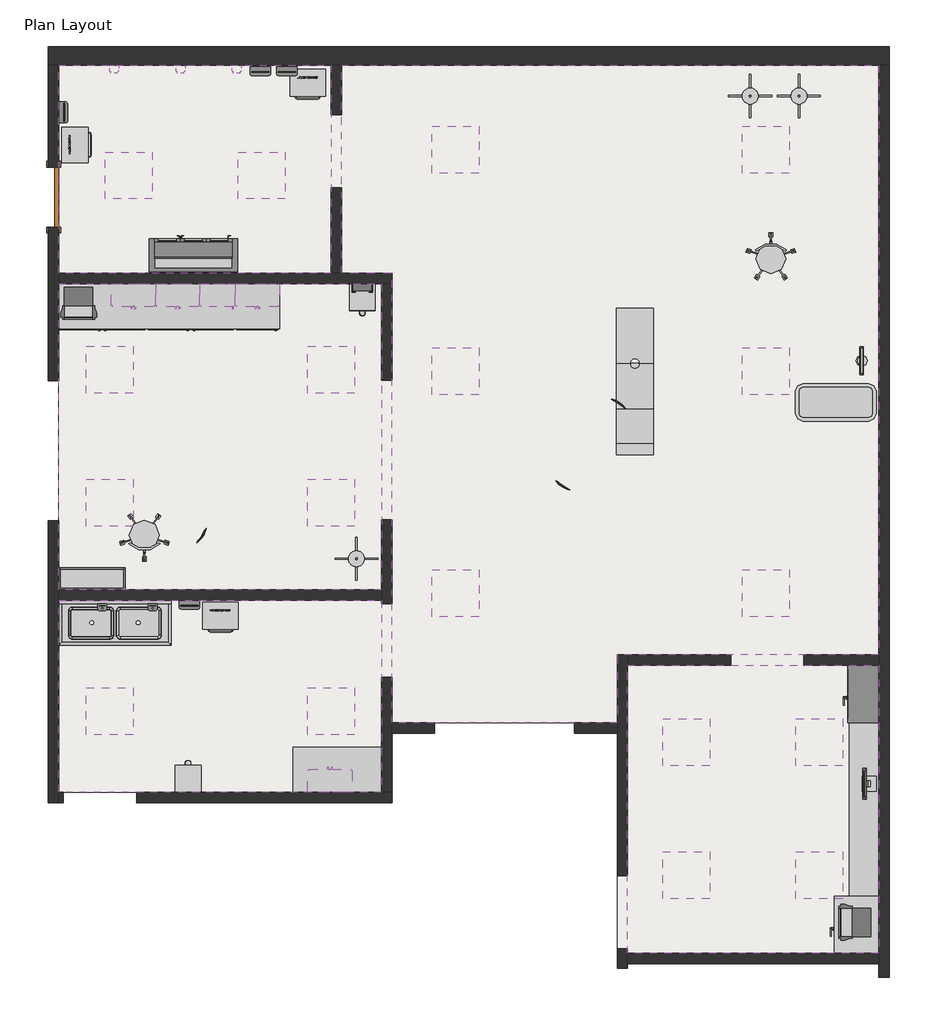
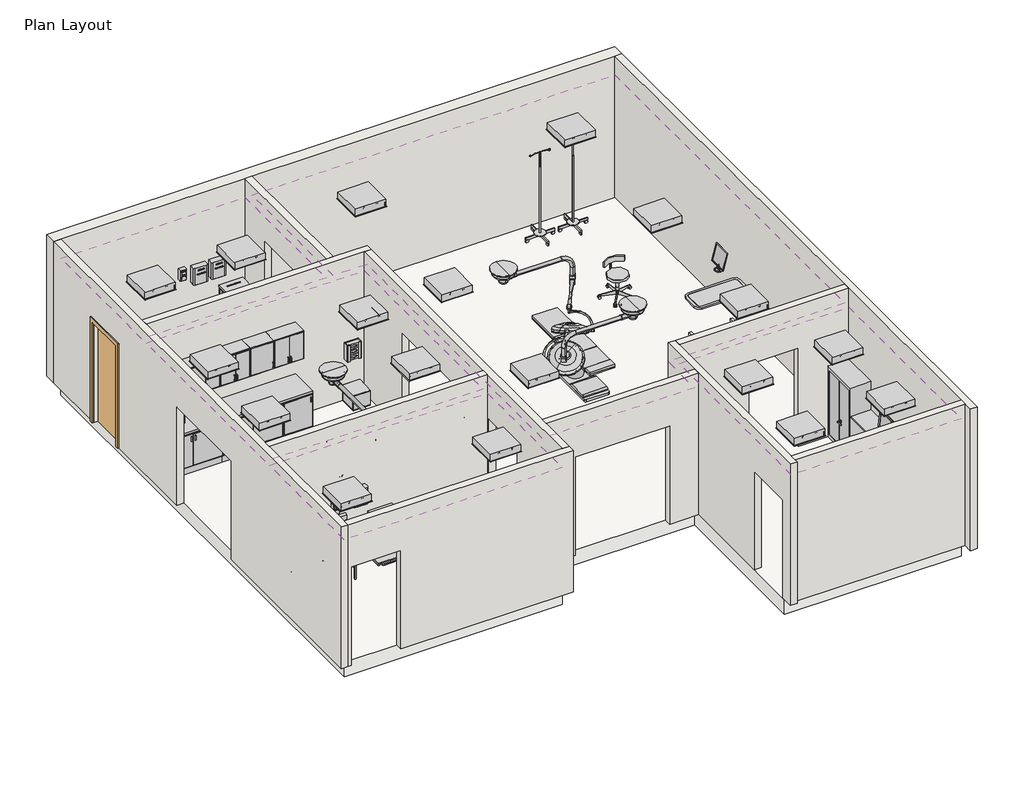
# One storey, incomplete: 31 furniture elements, 18 light fixtures, 14 proxies, 12 walls, 5 coverings, 1 door, 1 flow terminal, 1 slab.
"""IFC4 building model written with IfcOpenShell, lengths in millimetres."""

from ifc_helpers import new_model, si_unit, frame, origin, origin_with_axes, place, context, project, spatial, polyline, outline, extrude, faceted_brep, transform, mapped, element, save
from components import computer_lcd_reed_standard_d5f8aea6, dispenser_wall_medical_glove_holder_reed_dispenser_wall_c39a3ff9, iv_pole_4452_iv_pole_4452_920e618b, med_light_med_light_ebe8f9ca, med_light_med_light_51e73a2f, proxy_36ae4762, tft_monitor_tft_monitor_f74c8f71, table_or_reed_or_table_reed_c54af461, trashcan_small_reed_trashcan_small_reed_99036629, door_0813_x_2134mm_88d946ac, flow_terminal_32be4649, flow_terminal_316eafe6, furniture_5d620d8c, furniture_586be2a2, furniture_26d36cfe, furniture_166ce8d1, furniture_197fe330, cabinet_storage_780_x_430_x_1500_3fb16e5e, cabinet_storage_780_x_600_x_900_050bcf3c, cabinet_file_lateral_5_drawer_760_x_500_x_1520mm_f8146b65, chair_5_reed_chair_5_reed_12ea8904, m_upper_cabinet_double_door_wall_600mm_f8711566, m_upper_cabinet_single_door_wall_600mm_471400de, vanity_cabinet_dbl_door_1000mm_172667e9, vanity_cabinet_single_door_600mm_90b11e86, vanity_counter_top_400mm_depth_ec3fbc7b, vanity_counter_top_600mm_depth_447de73f, vanity_counter_top_600mm_depth_b6b50156, light_ceiling_fluorescent_recessed_parabolic_2_reed_two_lamp_72a9a026

model = new_model("IFC4")

# Units and contexts
model_context = context("Model", 3, world=origin())
ifc_project = project(units=[si_unit("LENGTHUNIT", "METRE", prefix="MILLI")], contexts=[model_context])

# Site, building, storey
site = spatial("IfcSite", under=ifc_project)
building = spatial("IfcBuilding", under=site)
storey = spatial("IfcBuildingStorey", under=building, Name="Plan Layout", Elevation=0.0)

# Proxies
placement = place(None, origin())
computer_lcd_reed_standard_shape = computer_lcd_reed_standard_d5f8aea6(model_context)
element("IfcBuildingElementProxy", 1, Name="Computer_LCD_Reed : Standard", ObjectType="Computer_LCD_Reed : Standard", at=placement, inside=storey, context=model_context, shape_type="MappedRepresentation", body=[
    mapped(computer_lcd_reed_standard_shape, transform((4037.5285128, 1463.5748694, 973.6946466), x_axis=(0.0, -1.0, 0.0), y_axis=(1.0, 0.0, 0.0), z_axis=(0.0, 0.0, 1.0))),
])
dispenser_wall_medical_glove_holder_reed_dispenser_wall_shape = dispenser_wall_medical_glove_holder_reed_dispenser_wall_c39a3ff9(model_context)
element("IfcBuildingElementProxy", 2, Name="Dispenser-Wall_Medical_Glove-Holder_Reed : Dispenser-Wall_Medical_Glove-Holder_Reed", ObjectType="Dispenser-Wall_Medical_Glove-Holder_Reed : Dispenser-Wall_Medical_Glove-Holder_Reed", at=placement, inside=storey, context=model_context, shape_type="MappedRepresentation", body=[
    mapped(dispenser_wall_medical_glove_holder_reed_dispenser_wall_shape, transform((-2818.7185551, 2585.1778015, 0.0), x_axis=(-1.0, 0.0, 0.0), y_axis=(0.0, -1.0, 0.0), z_axis=(0.0, 0.0, 1.0))),
])
iv_pole_4452_iv_pole_4452_shape = iv_pole_4452_iv_pole_4452_920e618b(model_context)
element("IfcBuildingElementProxy", 3, Name="IV_pole_4452 : IV_pole_4452", ObjectType="IV_pole_4452 : IV_pole_4452", at=placement, inside=storey, context=model_context, shape_type="MappedRepresentation", body=[
    mapped(iv_pole_4452_iv_pole_4452_shape, transform((-2899.0185551, -1204.8221985, 0.0), x_axis=(1.0, 0.0, 0.0), y_axis=(0.0, 1.0, 0.0), z_axis=(0.0, 0.0, 1.0))),
])
element("IfcBuildingElementProxy", 4, Name="IV_pole_4452 : IV_pole_4452", ObjectType="IV_pole_4452 : IV_pole_4452", at=placement, inside=storey, context=model_context, shape_type="MappedRepresentation", body=[
    mapped(iv_pole_4452_iv_pole_4452_shape, transform((2430.9814449, 5055.1778015, 0.0), x_axis=(1.0, 0.0, 0.0), y_axis=(0.0, 1.0, 0.0), z_axis=(0.0, 0.0, 1.0))),
])
element("IfcBuildingElementProxy", 5, Name="IV_pole_4452 : IV_pole_4452", ObjectType="IV_pole_4452 : IV_pole_4452", at=placement, inside=storey, context=model_context, shape_type="MappedRepresentation", body=[
    mapped(iv_pole_4452_iv_pole_4452_shape, transform((3090.9814449, 5055.1778015, 0.0), x_axis=(1.0, 0.0, 0.0), y_axis=(0.0, 1.0, 0.0), z_axis=(0.0, 0.0, 1.0))),
])
med_light_med_light_shape = med_light_med_light_ebe8f9ca(model_context)
med_light_med_light_2_shape = med_light_med_light_51e73a2f(model_context)
element("IfcBuildingElementProxy", 6, Name="Med light : Med light", ObjectType="Med light : Med light", at=placement, inside=storey, context=model_context, shape_type="MappedRepresentation", body=[
    mapped(med_light_med_light_shape, transform((-432.3543831, 1365.3940332, 275.3213976), x_axis=(0.0, -1.0000000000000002, 0.0), y_axis=(1.0000000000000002, 0.0, 0.0), z_axis=(0.0, 0.0, 1.0))),
    mapped(med_light_med_light_2_shape, transform((-432.3543831, 1365.3940332, 275.3213976), x_axis=(0.0, -1.0000000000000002, 0.0), y_axis=(1.0000000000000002, 0.0, 0.0), z_axis=(0.0, 0.0, 1.0))),
])
element("IfcBuildingElementProxy", 7, Name="Med light : Med light", ObjectType="Med light : Med light", at=placement, inside=storey, context=model_context, shape_type="MappedRepresentation", body=[
    mapped(med_light_med_light_shape, transform((-4521.8263351, 190.1803931, 275.3213976), x_axis=(-1.0000000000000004, 0.0, 0.0), y_axis=(0.0, -1.0000000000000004, 0.0), z_axis=(0.0, 0.0, 1.0))),
    mapped(med_light_med_light_2_shape, transform((-4521.8263351, 190.1803931, 275.3213976), x_axis=(-1.0000000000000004, 0.0, 0.0), y_axis=(0.0, -1.0000000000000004, 0.0), z_axis=(0.0, 0.0, 1.0))),
])
element("IfcBuildingElementProxy", 8, Name="Med light : Med light", ObjectType="Med light : Med light", at=placement, inside=storey, context=model_context, shape_type="MappedRepresentation", body=[
    mapped(med_light_med_light_shape, transform((976.33121, -684.8221985, 275.3213976), x_axis=(0.0, 1.0000000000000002, 0.0), y_axis=(-1.0000000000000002, 0.0, 0.0), z_axis=(0.0, 0.0, 1.0))),
    mapped(med_light_med_light_2_shape, transform((976.33121, -684.8221985, 275.3213976), x_axis=(0.0, 1.0000000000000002, 0.0), y_axis=(-1.0000000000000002, 0.0, 0.0), z_axis=(0.0, 0.0, 1.0))),
])
proxy_shape = proxy_36ae4762(model_context)
element("IfcBuildingElementProxy", 9, Name="Monitor : 17\" Monitor", ObjectType="Monitor : 17\" Monitor", at=placement, inside=storey, context=model_context, shape_type="MappedRepresentation", body=[
    mapped(proxy_shape, transform((-6683.3683062, 2215.1778015, 900.0), x_axis=(1.0, 0.0, 0.0), y_axis=(0.0, 1.0, 0.0), z_axis=(0.0, 0.0, 1.0))),
])
element("IfcBuildingElementProxy", 10, Name="Monitor : 17\" Monitor", ObjectType="Monitor : 17\" Monitor", at=placement, inside=storey, context=model_context, shape_type="MappedRepresentation", body=[
    mapped(proxy_shape, transform((3810.9814449, -6101.271741, 900.0), x_axis=(0.0, -1.0000000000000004, 0.0), y_axis=(1.0000000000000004, 0.0, 0.0), z_axis=(0.0, 0.0, 1.0))),
])
tft_monitor_tft_monitor_shape = tft_monitor_tft_monitor_f74c8f71(model_context)
element("IfcBuildingElementProxy", 11, Name="TFT Monitor : TFT Monitor", ObjectType="TFT Monitor : TFT Monitor", at=placement, inside=storey, context=model_context, shape_type="MappedRepresentation", body=[
    mapped(tft_monitor_tft_monitor_shape, transform((3990.9814449, -4076.9497073, 914.4), x_axis=(0.0, -1.0000000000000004, 0.0), y_axis=(1.0000000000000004, 0.0, 0.0), z_axis=(0.0, 0.0, 1.0))),
])
table_or_reed_or_table_reed_shape = table_or_reed_or_table_reed_c54af461(model_context)
element("IfcBuildingElementProxy", 12, Name="Table-OR_Reed : OR Table Reed", ObjectType="Table-OR_Reed : OR Table Reed", at=placement, inside=storey, context=model_context, shape_type="MappedRepresentation", body=[
    mapped(table_or_reed_or_table_reed_shape, transform((688.4359688, 631.7595323, 0.0), x_axis=(-1.0000000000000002, 0.0, 0.0), y_axis=(0.0, -1.0000000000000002, 0.0), z_axis=(0.0, 0.0, 1.0))),
])
trashcan_small_reed_trashcan_small_reed_shape = trashcan_small_reed_trashcan_small_reed_99036629(model_context)
element("IfcBuildingElementProxy", 13, Name="TrashCan-Small_Reed : TrashCan-Small_Reed", ObjectType="TrashCan-Small_Reed : TrashCan-Small_Reed", at=placement, inside=storey, context=model_context, shape_type="MappedRepresentation", body=[
    mapped(trashcan_small_reed_trashcan_small_reed_shape, transform((-2819.0185551, 2332.3176453, 0.0), x_axis=(1.0, 0.0, 0.0), y_axis=(0.0, 1.0, 0.0), z_axis=(0.0, 0.0, 1.0))),
])
element("IfcBuildingElementProxy", 14, Name="TrashCan-Small_Reed : TrashCan-Small_Reed", ObjectType="TrashCan-Small_Reed : TrashCan-Small_Reed", at=placement, inside=storey, context=model_context, shape_type="MappedRepresentation", body=[
    mapped(trashcan_small_reed_trashcan_small_reed_shape, transform((-5178.1028083, -4181.9620422, 0.0), x_axis=(-1.0, 0.0, 0.0), y_axis=(0.0, -1.0, 0.0), z_axis=(0.0, 0.0, 1.0))),
])

# Coverings
element("IfcCovering", 15, ObjectType="600 x 600mm Grid", at=placement, inside=storey, context=model_context, shape_type="SweptSolid", body=[
    extrude(outline(polyline([(-3099.8178488, 2655.1778015), (-3099.8178488, 5475.1778015), (4170.9814449, 5475.1778015), (4170.9814449, -2504.8221985), (630.9814449, -2504.8221985), (630.9814449, -3424.8221985), (-2419.0185551, -3424.8221985), (-2419.0185551, 2655.1778015), (-3099.8178488, 2655.1778015)]), holes=[polyline([(2945.1817981, 4634.7778015), (2335.5817981, 4634.7778015), (2335.5817981, 4025.1778015), (2945.1817981, 4025.1778015), (2945.1817981, 4634.7778015)]), polyline([(-1254.8182019, 4634.7778015), (-1864.4182019, 4634.7778015), (-1864.4182019, 4025.1778015), (-1254.8182019, 4025.1778015), (-1254.8182019, 4634.7778015)]), polyline([(2945.1817981, -1365.2221985), (2335.5817981, -1365.2221985), (2335.5817981, -1974.8221985), (2945.1817981, -1974.8221985), (2945.1817981, -1365.2221985)]), polyline([(-1254.8182019, -1365.2221985), (-1864.4182019, -1365.2221985), (-1864.4182019, -1974.8221985), (-1254.8182019, -1974.8221985), (-1254.8182019, -1365.2221985)]), polyline([(2945.1817981, 1634.7778015), (2335.5817981, 1634.7778015), (2335.5817981, 1025.1778015), (2945.1817981, 1025.1778015), (2945.1817981, 1634.7778015)]), polyline([(-1254.8182019, 1634.7778015), (-1864.4182019, 1634.7778015), (-1864.4182019, 1025.1778015), (-1254.8182019, 1025.1778015), (-1254.8182019, 1634.7778015)])]), frame((0.0, 0.0, 2600.0), z_axis=(0.0, 0.0, 1.0), x_axis=(1.0, 0.0, 0.0)), (0.0, 0.0, 1.0), 52.0),
])
element("IfcCovering", 16, ObjectType="600 x 600mm Grid", at=placement, inside=storey, context=model_context, shape_type="SweptSolid", body=[
    extrude(outline(polyline([(-2559.0185551, -1624.8221985), (-6929.0185551, -1624.8221985), (-6929.0185551, 2515.1778015), (-2559.0185551, 2515.1778015), (-2559.0185551, -1624.8221985)]), holes=[polyline([(-5934.4185551, 1654.7778015), (-6544.0185551, 1654.7778015), (-6544.0185551, 1045.1778015), (-5934.4185551, 1045.1778015), (-5934.4185551, 1654.7778015)]), polyline([(-2934.4185551, 1654.7778015), (-3544.0185551, 1654.7778015), (-3544.0185551, 1045.1778015), (-2934.4185551, 1045.1778015), (-2934.4185551, 1654.7778015)]), polyline([(-5934.4185551, -145.2221985), (-6544.0185551, -145.2221985), (-6544.0185551, -754.8221985), (-5934.4185551, -754.8221985), (-5934.4185551, -145.2221985)]), polyline([(-2934.4185551, -145.2221985), (-3544.0185551, -145.2221985), (-3544.0185551, -754.8221985), (-2934.4185551, -754.8221985), (-2934.4185551, -145.2221985)])]), frame((0.0, 0.0, 2600.0), z_axis=(0.0, 0.0, 1.0), x_axis=(1.0, 0.0, 0.0)), (0.0, 0.0, 1.0), 52.0),
])
element("IfcCovering", 17, ObjectType="600 x 600mm Grid", at=placement, inside=storey, context=model_context, shape_type="SweptSolid", body=[
    extrude(outline(polyline([(-6929.0185551, 2655.1778015), (-6929.0185551, 5475.1778015), (-3239.8178488, 5475.1778015), (-3239.8178488, 2655.1778015), (-6929.0185551, 2655.1778015)]), holes=[polyline([(-5674.8182019, 4284.7778015), (-6284.4182019, 4284.7778015), (-6284.4182019, 3675.1778015), (-5674.8182019, 3675.1778015), (-5674.8182019, 4284.7778015)]), polyline([(-3874.8182019, 4284.7778015), (-4484.4182019, 4284.7778015), (-4484.4182019, 3675.1778015), (-3874.8182019, 3675.1778015), (-3874.8182019, 4284.7778015)])]), frame((0.0, 0.0, 2600.0), z_axis=(0.0, 0.0, 1.0), x_axis=(1.0, 0.0, 0.0)), (0.0, 0.0, 1.0), 52.0),
])
element("IfcCovering", 18, ObjectType="600 x 600mm Grid", at=placement, inside=storey, context=model_context, shape_type="SweptSolid", body=[
    extrude(outline(polyline([(-2559.0185551, -4364.8221985), (-6929.0185551, -4364.8221985), (-6929.0185551, -1764.8221985), (-2559.0185551, -1764.8221985), (-2559.0185551, -4364.8221985)]), holes=[polyline([(-2934.4185551, -2964.8221985), (-3544.0185551, -2964.8221985), (-3544.0185551, -3574.4221985), (-2934.4185551, -3574.4221985), (-2934.4185551, -2964.8221985)]), polyline([(-5934.4185551, -2964.8221985), (-6544.0185551, -2964.8221985), (-6544.0185551, -3574.4221985), (-5934.4185551, -3574.4221985), (-5934.4185551, -2964.8221985)])]), frame((0.0, 0.0, 2600.0), z_axis=(0.0, 0.0, 1.0), x_axis=(1.0, 0.0, 0.0)), (0.0, 0.0, 1.0), 52.0),
])
element("IfcCovering", 19, ObjectType="600 x 600mm Grid", at=placement, inside=storey, context=model_context, shape_type="SweptSolid", body=[
    extrude(outline(polyline([(4170.9814449, -6544.8221985), (770.9814449, -6544.8221985), (770.9814449, -2644.8221985), (4170.9814449, -2644.8221985), (4170.9814449, -6544.8221985)]), holes=[polyline([(1870.9814449, -3385.2221985), (1261.3814449, -3385.2221985), (1261.3814449, -3994.8221985), (1870.9814449, -3994.8221985), (1870.9814449, -3385.2221985)]), polyline([(1870.9814449, -5185.2221985), (1261.3814449, -5185.2221985), (1261.3814449, -5794.8221985), (1870.9814449, -5794.8221985), (1870.9814449, -5185.2221985)]), polyline([(3670.9814449, -3385.2221985), (3061.3814449, -3385.2221985), (3061.3814449, -3994.8221985), (3670.9814449, -3994.8221985), (3670.9814449, -3385.2221985)]), polyline([(3670.9814449, -5185.2221985), (3061.3814449, -5185.2221985), (3061.3814449, -5794.8221985), (3670.9814449, -5794.8221985), (3670.9814449, -5185.2221985)])]), frame((0.0, 0.0, 2600.0), z_axis=(0.0, 0.0, 1.0), x_axis=(1.0, 0.0, 0.0)), (0.0, 0.0, 1.0), 52.0),
])

# Door
door_0813_x_2134mm_shape = door_0813_x_2134mm_88d946ac(model_context)
element("IfcDoor", 20, ObjectType="Whiterock single door : 0813 x 2134mm", at=placement, inside=storey, context=model_context, shape_type="MappedRepresentation", body=[
    mapped(door_0813_x_2134mm_shape, transform((-6999.0185551, 3687.6778015, 0.0), x_axis=(0.0, -1.0, 0.0), y_axis=(1.0, 0.0, 0.0), z_axis=(0.0, 0.0, 1.0))),
])

# Flow terminal
flow_terminal_shape = flow_terminal_32be4649(model_context)
flow_terminal_2_shape = flow_terminal_316eafe6(model_context)
element("IfcFlowTerminal", 21, ObjectType="Sink_-_2_Basin_352 : 60\" Width", at=placement, inside=storey, context=model_context, shape_type="MappedRepresentation", body=[
    mapped(flow_terminal_shape, transform((-6183.3577956, -2002.1175996, 0.0), x_axis=(1.0, 0.0, 0.0), y_axis=(0.0, 1.0, 0.0), z_axis=(0.0, 0.0, 1.0))),
    mapped(flow_terminal_2_shape, transform((-6183.3577956, -2002.1175996, 0.0), x_axis=(1.0, 0.0, 0.0), y_axis=(0.0, 1.0, 0.0), z_axis=(0.0, 0.0, 1.0))),
])

# Furniture
furniture_shape = furniture_5d620d8c(model_context)
element("IfcFurniture", 22, ObjectType="Table-Overbed_Reed : Table-Overbed_Reed", at=placement, inside=storey, context=model_context, shape_type="MappedRepresentation", body=[
    mapped(furniture_shape, transform((3590.9814449, 910.5595323, 0.0), x_axis=(-1.0000000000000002, 0.0, 0.0), y_axis=(0.0, -1.0000000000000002, 0.0), z_axis=(0.0, 0.0, 1.0))),
])
furniture_2_shape = furniture_586be2a2(model_context)
element("IfcFurniture", 23, ObjectType="FloralMerchandiser_3-Door-Display_Reed : FloralMerchandiser_3-Door-Display_Reed", at=placement, inside=storey, context=model_context, shape_type="MappedRepresentation", body=[
    mapped(furniture_2_shape, transform((-6309.9149196, 2824.481437, 0.0), x_axis=(-1.0, 0.0, 0.0), y_axis=(0.0, -1.0, 0.0), z_axis=(0.0, 0.0, 1.0))),
])
furniture_3_shape = furniture_26d36cfe(model_context)
element("IfcFurniture", 24, ObjectType="BIMHealth-Soap_Dispenser-LOD2A-v1 : BIMHealth-Soap_Dispenser-LOD2A-v1", at=placement, inside=storey, context=model_context, shape_type="MappedRepresentation", body=[
    mapped(furniture_3_shape, transform((-6239.8178488, 5469.1778015, 141.6760326), x_axis=(1.0, 0.0, 0.0), y_axis=(0.0, 1.0, 0.0), z_axis=(0.0, 0.0, 1.0))),
])
element("IfcFurniture", 25, ObjectType="BIMHealth-Soap_Dispenser-LOD2A-v1 : BIMHealth-Soap_Dispenser-LOD2A-v1", at=placement, inside=storey, context=model_context, shape_type="MappedRepresentation", body=[
    mapped(furniture_3_shape, transform((-5339.8178488, 5469.1778015, 141.6760326), x_axis=(1.0, 0.0, 0.0), y_axis=(0.0, 1.0, 0.0), z_axis=(0.0, 0.0, 1.0))),
])
element("IfcFurniture", 26, ObjectType="BIMHealth-Soap_Dispenser-LOD2A-v1 : BIMHealth-Soap_Dispenser-LOD2A-v1", at=placement, inside=storey, context=model_context, shape_type="MappedRepresentation", body=[
    mapped(furniture_3_shape, transform((-4579.8178488, 5469.1778015, 141.6760326), x_axis=(1.0, 0.0, 0.0), y_axis=(0.0, 1.0, 0.0), z_axis=(0.0, 0.0, 1.0))),
])
element("IfcFurniture", 27, ObjectType="BIMHealth-Soap_Dispenser-LOD2A-v1 : BIMHealth-Soap_Dispenser-LOD2A-v1", at=placement, inside=storey, context=model_context, shape_type="MappedRepresentation", body=[
    mapped(furniture_3_shape, transform((-6399.0185551, -1815.6221985, 0.0), x_axis=(1.0, 0.0, 0.0), y_axis=(0.0, 1.0, 0.0), z_axis=(0.0, 0.0, 1.0))),
])
element("IfcFurniture", 28, ObjectType="BIMHealth-Soap_Dispenser-LOD2A-v1 : BIMHealth-Soap_Dispenser-LOD2A-v1", at=placement, inside=storey, context=model_context, shape_type="MappedRepresentation", body=[
    mapped(furniture_3_shape, transform((-5719.0185551, -1815.6221985, 0.0), x_axis=(1.0, 0.0, 0.0), y_axis=(0.0, 1.0, 0.0), z_axis=(0.0, 0.0, 1.0))),
])
furniture_4_shape = furniture_166ce8d1(model_context)
element("IfcFurniture", 29, ObjectType="BIMHealth-Paper_Towel_Dispenser-LOD2A-v1 : BIMHealth-Paper_Towel_Dispenser-LOD2A-v1", at=placement, inside=storey, context=model_context, shape_type="MappedRepresentation", body=[
    mapped(furniture_4_shape, transform((-6929.0185551, 4695.1778015, 0.0), x_axis=(0.0, 1.0, 0.0), y_axis=(-1.0, 0.0, 0.0), z_axis=(0.0, 0.0, 1.0))),
])
element("IfcFurniture", 30, ObjectType="BIMHealth-Paper_Towel_Dispenser-LOD2A-v1 : BIMHealth-Paper_Towel_Dispenser-LOD2A-v1", at=placement, inside=storey, context=model_context, shape_type="MappedRepresentation", body=[
    mapped(furniture_4_shape, transform((-4339.8178488, 5454.1778015, 0.0), x_axis=(1.0000000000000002, 0.0, 0.0), y_axis=(0.0, 1.0000000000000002, 0.0), z_axis=(0.0, 0.0, 1.0))),
])
element("IfcFurniture", 31, ObjectType="BIMHealth-Paper_Towel_Dispenser-LOD2A-v1 : BIMHealth-Paper_Towel_Dispenser-LOD2A-v1", at=placement, inside=storey, context=model_context, shape_type="MappedRepresentation", body=[
    mapped(furniture_4_shape, transform((-3979.8178488, 5454.1778015, 0.0), x_axis=(1.0, 0.0, 0.0), y_axis=(0.0, 1.0, 0.0), z_axis=(0.0, 0.0, 1.0))),
])
element("IfcFurniture", 32, ObjectType="BIMHealth-Paper_Towel_Dispenser-LOD2A-v1 : BIMHealth-Paper_Towel_Dispenser-LOD2A-v1", at=placement, inside=storey, context=model_context, shape_type="MappedRepresentation", body=[
    mapped(furniture_4_shape, transform((-5299.0185551, -1764.8221985, 0.0), x_axis=(1.0, 0.0, 0.0), y_axis=(0.0, 1.0, 0.0), z_axis=(0.0, 0.0, 1.0))),
])
furniture_5_shape = furniture_197fe330(model_context)
element("IfcFurniture", 33, ObjectType="BIMHealth-Sack_Holder_Domestic-LOD2A-v1 : BIMHealth-Sack_Holder_Domestic-LOD2A-v1", at=placement, inside=storey, context=model_context, shape_type="MappedRepresentation", body=[
    mapped(furniture_5_shape, transform((-3779.8178488, 5395.1778015, 0.0), x_axis=(1.0, 0.0, 0.0), y_axis=(0.0, 1.0, 0.0), z_axis=(0.0, 0.0, 1.0))),
])
element("IfcFurniture", 34, ObjectType="BIMHealth-Sack_Holder_Domestic-LOD2A-v1 : BIMHealth-Sack_Holder_Domestic-LOD2A-v1", at=placement, inside=storey, context=model_context, shape_type="MappedRepresentation", body=[
    mapped(furniture_5_shape, transform((-6869.0185551, 4175.1778015, 0.0), x_axis=(0.0, 1.0, 0.0), y_axis=(-1.0, 0.0, 0.0), z_axis=(0.0, 0.0, 1.0))),
])
element("IfcFurniture", 35, ObjectType="BIMHealth-Sack_Holder_Domestic-LOD2A-v1 : BIMHealth-Sack_Holder_Domestic-LOD2A-v1", at=placement, inside=storey, context=model_context, shape_type="MappedRepresentation", body=[
    mapped(furniture_5_shape, transform((-4959.0185551, -1815.6221985, 0.0), x_axis=(1.0, 0.0, 0.0), y_axis=(0.0, 1.0, 0.0), z_axis=(0.0, 0.0, 1.0))),
])
cabinet_storage_780_x_430_x_1500_shape = cabinet_storage_780_x_430_x_1500_3fb16e5e(model_context)
element("IfcFurniture", 36, ObjectType="Cabinet - Storage : 780 x 430 x 1500", at=placement, inside=storey, context=model_context, shape_type="MappedRepresentation", body=[
    mapped(cabinet_storage_780_x_430_x_1500_shape, transform((3965.9814449, -3034.8221985, 0.0), x_axis=(0.0, -1.0000000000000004, 0.0), y_axis=(1.0000000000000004, 0.0, 0.0), z_axis=(0.0, 0.0, 1.0))),
])
cabinet_storage_780_x_600_x_900_shape = cabinet_storage_780_x_600_x_900_050bcf3c(model_context)
element("IfcFurniture", 37, ObjectType="Cabinet - Storage : 780 x 600 x 900", at=placement, inside=storey, context=model_context, shape_type="MappedRepresentation", body=[
    mapped(cabinet_storage_780_x_600_x_900_shape, transform((3870.9814449, -6159.4404677, 0.0), x_axis=(0.0, -1.0000000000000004, 0.0), y_axis=(1.0000000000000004, 0.0, 0.0), z_axis=(0.0, 0.0, 1.0))),
])
cabinet_file_lateral_5_drawer_760_x_500_x_1520mm_shape = cabinet_file_lateral_5_drawer_760_x_500_x_1520mm_f8146b65(model_context)
element("IfcFurniture", 38, ObjectType="Cabinet File - Lateral 5 Drawer : 760 x 500 x 1520mm", at=placement, inside=storey, context=model_context, shape_type="MappedRepresentation", body=[
    mapped(cabinet_file_lateral_5_drawer_760_x_500_x_1520mm_shape, transform((-6298.9960411, -2409.1405746, 0.0), x_axis=(1.0, 0.0, 0.0), y_axis=(0.0, 1.0, 0.0), z_axis=(0.0, 0.0, 1.0))),
])
chair_5_reed_chair_5_reed_shape = chair_5_reed_chair_5_reed_12ea8904(model_context)
element("IfcFurniture", 39, ObjectType="Chair-5_Reed : Chair-5_Reed", at=placement, inside=storey, context=model_context, shape_type="MappedRepresentation", body=[
    mapped(chair_5_reed_chair_5_reed_shape, transform((2149.9886229, 2671.2808536, 0.0), x_axis=(1.0, 0.0, 0.0), y_axis=(0.0, 1.0, 0.0), z_axis=(0.0, 0.0, 1.0))),
])
element("IfcFurniture", 40, ObjectType="Chair-5_Reed : Chair-5_Reed", at=placement, inside=storey, context=model_context, shape_type="MappedRepresentation", body=[
    mapped(chair_5_reed_chair_5_reed_shape, transform((-5208.025733, -700.9252506, 0.0), x_axis=(-1.0, 0.0, 0.0), y_axis=(0.0, -1.0, 0.0), z_axis=(0.0, 0.0, 1.0))),
])
m_upper_cabinet_double_door_wall_600mm_shape = m_upper_cabinet_double_door_wall_600mm_f8711566(model_context)
element("IfcFurniture", 41, ObjectType="M_Upper Cabinet-Double Door-Wall : 600mm", at=placement, inside=storey, context=model_context, shape_type="MappedRepresentation", body=[
    mapped(m_upper_cabinet_double_door_wall_600mm_shape, transform((-5889.2473923, 2585.1778015, 0.0), x_axis=(-1.0, 0.0, 0.0), y_axis=(0.0, -1.0, 0.0), z_axis=(0.0, 0.0, 1.0))),
])
element("IfcFurniture", 42, ObjectType="M_Upper Cabinet-Double Door-Wall : 600mm", at=placement, inside=storey, context=model_context, shape_type="MappedRepresentation", body=[
    mapped(m_upper_cabinet_double_door_wall_600mm_shape, transform((-5289.2473923, 2585.1778015, 0.0), x_axis=(-1.0, 0.0, 0.0), y_axis=(0.0, -1.0, 0.0), z_axis=(0.0, 0.0, 1.0))),
])
element("IfcFurniture", 43, ObjectType="M_Upper Cabinet-Double Door-Wall : 600mm", at=placement, inside=storey, context=model_context, shape_type="MappedRepresentation", body=[
    mapped(m_upper_cabinet_double_door_wall_600mm_shape, transform((-4210.046686, 2585.1778015, 0.0), x_axis=(-1.0, 0.0, 0.0), y_axis=(0.0, -1.0, 0.0), z_axis=(0.0, 0.0, 1.0))),
])
element("IfcFurniture", 44, ObjectType="M_Upper Cabinet-Double Door-Wall : 600mm", at=placement, inside=storey, context=model_context, shape_type="MappedRepresentation", body=[
    mapped(m_upper_cabinet_double_door_wall_600mm_shape, transform((-3288.7897179, -4434.8221985, 0.0), x_axis=(1.0, 0.0, 0.0), y_axis=(0.0, 1.0, 0.0), z_axis=(0.0, 0.0, 1.0))),
])
m_upper_cabinet_single_door_wall_600mm_shape = m_upper_cabinet_single_door_wall_600mm_471400de(model_context)
element("IfcFurniture", 45, ObjectType="M_Upper Cabinet-Single Door-Wall : 600mm", at=placement, inside=storey, context=model_context, shape_type="MappedRepresentation", body=[
    mapped(m_upper_cabinet_single_door_wall_600mm_shape, transform((-4749.7473923, 2585.1778015, 0.0), x_axis=(-1.0, 0.0, 0.0), y_axis=(0.0, -1.0, 0.0), z_axis=(0.0, 0.0, 1.0))),
])
vanity_cabinet_dbl_door_1000mm_shape = vanity_cabinet_dbl_door_1000mm_172667e9(model_context)
element("IfcFurniture", 46, ObjectType="Vanity Cabinet - Dbl Door : 1000mm", at=placement, inside=storey, context=model_context, shape_type="MappedRepresentation", body=[
    mapped(vanity_cabinet_dbl_door_1000mm_shape, transform((-6358.5555537, 2505.1778015, 0.0), x_axis=(1.0, 0.0, 0.0), y_axis=(0.0, 1.0, 0.0), z_axis=(0.0, 0.0, 1.0))),
])
element("IfcFurniture", 47, ObjectType="Vanity Cabinet - Dbl Door : 1000mm", at=placement, inside=storey, context=model_context, shape_type="MappedRepresentation", body=[
    mapped(vanity_cabinet_dbl_door_1000mm_shape, transform((-5158.5555537, 2505.1778015, 0.0), x_axis=(1.0, 0.0, 0.0), y_axis=(0.0, 1.0, 0.0), z_axis=(0.0, 0.0, 1.0))),
])
element("IfcFurniture", 48, ObjectType="Vanity Cabinet - Dbl Door : 1000mm", at=placement, inside=storey, context=model_context, shape_type="MappedRepresentation", body=[
    mapped(vanity_cabinet_dbl_door_1000mm_shape, transform((-3177.75626, -3764.8221985, 0.0), x_axis=(1.0, 0.0, 0.0), y_axis=(0.0, 1.0, 0.0), z_axis=(0.0, 0.0, 1.0))),
])
vanity_cabinet_single_door_600mm_shape = vanity_cabinet_single_door_600mm_90b11e86(model_context)
element("IfcFurniture", 49, ObjectType="Vanity Cabinet - Single Door : 600mm", at=placement, inside=storey, context=model_context, shape_type="MappedRepresentation", body=[
    mapped(vanity_cabinet_single_door_600mm_shape, transform((-4258.5555537, 2505.1778015, 0.0), x_axis=(1.0, 0.0, 0.0), y_axis=(0.0, 1.0, 0.0), z_axis=(0.0, 0.0, 1.0))),
])
vanity_counter_top_400mm_depth_shape = vanity_counter_top_400mm_depth_ec3fbc7b(model_context)
element("IfcFurniture", 50, ObjectType="Vanity Counter Top : 400mm Depth", at=placement, inside=storey, context=model_context, shape_type="MappedRepresentation", body=[
    mapped(vanity_counter_top_400mm_depth_shape, transform((4170.9814449, -4625.2844936, 0.0), x_axis=(0.0, -1.0, 0.0), y_axis=(1.0, 0.0, 0.0), z_axis=(0.0, 0.0, 1.0))),
])
vanity_counter_top_600mm_depth_shape = vanity_counter_top_600mm_depth_447de73f(model_context)
element("IfcFurniture", 51, ObjectType="Vanity Counter Top : 600mm Depth", at=placement, inside=storey, context=model_context, shape_type="MappedRepresentation", body=[
    mapped(vanity_counter_top_600mm_depth_shape, transform((-3759.4808502, -4364.8221985, 0.0), x_axis=(-1.0, 0.0, 0.0), y_axis=(0.0, -1.0, 0.0), z_axis=(0.0, 0.0, 1.0))),
])
vanity_counter_top_600mm_depth_2_shape = vanity_counter_top_600mm_depth_b6b50156(model_context)
element("IfcFurniture", 52, ObjectType="Vanity Counter Top : 600mm Depth", at=placement, inside=storey, context=model_context, shape_type="MappedRepresentation", body=[
    mapped(vanity_counter_top_600mm_depth_2_shape, transform((-5728.55626, 2515.1778015, 0.0), x_axis=(1.0, 0.0, 0.0), y_axis=(0.0, 1.0, 0.0), z_axis=(0.0, 0.0, 1.0))),
])

# Light fixtures
light_ceiling_fluorescent_recessed_parabolic_2_reed_two_lamp_shape = light_ceiling_fluorescent_recessed_parabolic_2_reed_two_lamp_72a9a026(model_context)
element("IfcLightFixture", 53, ObjectType="Light_Ceiling_Fluorescent_Recessed-Parabolic_2_Reed : Two Lamp (2Ft x 2Ft)", at=placement, inside=storey, context=model_context, shape_type="MappedRepresentation", body=[
    mapped(light_ceiling_fluorescent_recessed_parabolic_2_reed_two_lamp_shape, transform((2640.3817981, 4787.1778015, 156.8375), x_axis=(1.0, 0.0, 0.0), y_axis=(0.0, 1.0, 0.0), z_axis=(0.0, 0.0, 1.0))),
])
element("IfcLightFixture", 54, ObjectType="Light_Ceiling_Fluorescent_Recessed-Parabolic_2_Reed : Two Lamp (2Ft x 2Ft)", at=placement, inside=storey, context=model_context, shape_type="MappedRepresentation", body=[
    mapped(light_ceiling_fluorescent_recessed_parabolic_2_reed_two_lamp_shape, transform((-1559.6182019, 4787.1778015, 156.8375), x_axis=(1.0, 0.0, 0.0), y_axis=(0.0, 1.0, 0.0), z_axis=(0.0, 0.0, 1.0))),
])
element("IfcLightFixture", 55, ObjectType="Light_Ceiling_Fluorescent_Recessed-Parabolic_2_Reed : Two Lamp (2Ft x 2Ft)", at=placement, inside=storey, context=model_context, shape_type="MappedRepresentation", body=[
    mapped(light_ceiling_fluorescent_recessed_parabolic_2_reed_two_lamp_shape, transform((2640.3817981, -1212.8221985, 156.8375), x_axis=(1.0, 0.0, 0.0), y_axis=(0.0, 1.0, 0.0), z_axis=(0.0, 0.0, 1.0))),
])
element("IfcLightFixture", 56, ObjectType="Light_Ceiling_Fluorescent_Recessed-Parabolic_2_Reed : Two Lamp (2Ft x 2Ft)", at=placement, inside=storey, context=model_context, shape_type="MappedRepresentation", body=[
    mapped(light_ceiling_fluorescent_recessed_parabolic_2_reed_two_lamp_shape, transform((-1559.6182019, -1212.8221985, 156.8375), x_axis=(1.0, 0.0, 0.0), y_axis=(0.0, 1.0, 0.0), z_axis=(0.0, 0.0, 1.0))),
])
element("IfcLightFixture", 57, ObjectType="Light_Ceiling_Fluorescent_Recessed-Parabolic_2_Reed : Two Lamp (2Ft x 2Ft)", at=placement, inside=storey, context=model_context, shape_type="MappedRepresentation", body=[
    mapped(light_ceiling_fluorescent_recessed_parabolic_2_reed_two_lamp_shape, transform((2640.3817981, 1787.1778015, 156.8375), x_axis=(1.0, 0.0, 0.0), y_axis=(0.0, 1.0, 0.0), z_axis=(0.0, 0.0, 1.0))),
])
element("IfcLightFixture", 58, ObjectType="Light_Ceiling_Fluorescent_Recessed-Parabolic_2_Reed : Two Lamp (2Ft x 2Ft)", at=placement, inside=storey, context=model_context, shape_type="MappedRepresentation", body=[
    mapped(light_ceiling_fluorescent_recessed_parabolic_2_reed_two_lamp_shape, transform((-1559.6182019, 1787.1778015, 156.8375), x_axis=(1.0, 0.0, 0.0), y_axis=(0.0, 1.0, 0.0), z_axis=(0.0, 0.0, 1.0))),
])
element("IfcLightFixture", 59, ObjectType="Light_Ceiling_Fluorescent_Recessed-Parabolic_2_Reed : Two Lamp (2Ft x 2Ft)", at=placement, inside=storey, context=model_context, shape_type="MappedRepresentation", body=[
    mapped(light_ceiling_fluorescent_recessed_parabolic_2_reed_two_lamp_shape, transform((-5979.6182019, 4437.1778015, 156.8375), x_axis=(1.0, 0.0, 0.0), y_axis=(0.0, 1.0, 0.0), z_axis=(0.0, 0.0, 1.0))),
])
element("IfcLightFixture", 60, ObjectType="Light_Ceiling_Fluorescent_Recessed-Parabolic_2_Reed : Two Lamp (2Ft x 2Ft)", at=placement, inside=storey, context=model_context, shape_type="MappedRepresentation", body=[
    mapped(light_ceiling_fluorescent_recessed_parabolic_2_reed_two_lamp_shape, transform((-4179.6182019, 4437.1778015, 156.8375), x_axis=(1.0, 0.0, 0.0), y_axis=(0.0, 1.0, 0.0), z_axis=(0.0, 0.0, 1.0))),
])
element("IfcLightFixture", 61, ObjectType="Light_Ceiling_Fluorescent_Recessed-Parabolic_2_Reed : Two Lamp (2Ft x 2Ft)", at=placement, inside=storey, context=model_context, shape_type="MappedRepresentation", body=[
    mapped(light_ceiling_fluorescent_recessed_parabolic_2_reed_two_lamp_shape, transform((-6239.2185551, 1807.1778015, 156.8375), x_axis=(1.0, 0.0, 0.0), y_axis=(0.0, 1.0, 0.0), z_axis=(0.0, 0.0, 1.0))),
])
element("IfcLightFixture", 62, ObjectType="Light_Ceiling_Fluorescent_Recessed-Parabolic_2_Reed : Two Lamp (2Ft x 2Ft)", at=placement, inside=storey, context=model_context, shape_type="MappedRepresentation", body=[
    mapped(light_ceiling_fluorescent_recessed_parabolic_2_reed_two_lamp_shape, transform((-3239.2185551, 1807.1778015, 156.8375), x_axis=(1.0, 0.0, 0.0), y_axis=(0.0, 1.0, 0.0), z_axis=(0.0, 0.0, 1.0))),
])
element("IfcLightFixture", 63, ObjectType="Light_Ceiling_Fluorescent_Recessed-Parabolic_2_Reed : Two Lamp (2Ft x 2Ft)", at=placement, inside=storey, context=model_context, shape_type="MappedRepresentation", body=[
    mapped(light_ceiling_fluorescent_recessed_parabolic_2_reed_two_lamp_shape, transform((-6239.2185551, 7.1778015, 156.8375), x_axis=(1.0, 0.0, 0.0), y_axis=(0.0, 1.0, 0.0), z_axis=(0.0, 0.0, 1.0))),
])
element("IfcLightFixture", 64, ObjectType="Light_Ceiling_Fluorescent_Recessed-Parabolic_2_Reed : Two Lamp (2Ft x 2Ft)", at=placement, inside=storey, context=model_context, shape_type="MappedRepresentation", body=[
    mapped(light_ceiling_fluorescent_recessed_parabolic_2_reed_two_lamp_shape, transform((-3239.2185551, 7.1778015, 156.8375), x_axis=(1.0, 0.0, 0.0), y_axis=(0.0, 1.0, 0.0), z_axis=(0.0, 0.0, 1.0))),
])
element("IfcLightFixture", 65, ObjectType="Light_Ceiling_Fluorescent_Recessed-Parabolic_2_Reed : Two Lamp (2Ft x 2Ft)", at=placement, inside=storey, context=model_context, shape_type="MappedRepresentation", body=[
    mapped(light_ceiling_fluorescent_recessed_parabolic_2_reed_two_lamp_shape, transform((-3239.2185551, -2812.4221985, 156.8375), x_axis=(1.0, 0.0, 0.0), y_axis=(0.0, 1.0, 0.0), z_axis=(0.0, 0.0, 1.0))),
])
element("IfcLightFixture", 66, ObjectType="Light_Ceiling_Fluorescent_Recessed-Parabolic_2_Reed : Two Lamp (2Ft x 2Ft)", at=placement, inside=storey, context=model_context, shape_type="MappedRepresentation", body=[
    mapped(light_ceiling_fluorescent_recessed_parabolic_2_reed_two_lamp_shape, transform((-6239.2185551, -2812.4221985, 156.8375), x_axis=(1.0, 0.0, 0.0), y_axis=(0.0, 1.0, 0.0), z_axis=(0.0, 0.0, 1.0))),
])
element("IfcLightFixture", 67, ObjectType="Light_Ceiling_Fluorescent_Recessed-Parabolic_2_Reed : Two Lamp (2Ft x 2Ft)", at=placement, inside=storey, context=model_context, shape_type="MappedRepresentation", body=[
    mapped(light_ceiling_fluorescent_recessed_parabolic_2_reed_two_lamp_shape, transform((1566.1814449, -3232.8221985, 156.8375), x_axis=(1.0, 0.0, 0.0), y_axis=(0.0, 1.0, 0.0), z_axis=(0.0, 0.0, 1.0))),
])
element("IfcLightFixture", 68, ObjectType="Light_Ceiling_Fluorescent_Recessed-Parabolic_2_Reed : Two Lamp (2Ft x 2Ft)", at=placement, inside=storey, context=model_context, shape_type="MappedRepresentation", body=[
    mapped(light_ceiling_fluorescent_recessed_parabolic_2_reed_two_lamp_shape, transform((1566.1814449, -5032.8221985, 156.8375), x_axis=(1.0, 0.0, 0.0), y_axis=(0.0, 1.0, 0.0), z_axis=(0.0, 0.0, 1.0))),
])
element("IfcLightFixture", 69, ObjectType="Light_Ceiling_Fluorescent_Recessed-Parabolic_2_Reed : Two Lamp (2Ft x 2Ft)", at=placement, inside=storey, context=model_context, shape_type="MappedRepresentation", body=[
    mapped(light_ceiling_fluorescent_recessed_parabolic_2_reed_two_lamp_shape, transform((3366.1814449, -3232.8221985, 156.8375), x_axis=(1.0, 0.0, 0.0), y_axis=(0.0, 1.0, 0.0), z_axis=(0.0, 0.0, 1.0))),
])
element("IfcLightFixture", 70, ObjectType="Light_Ceiling_Fluorescent_Recessed-Parabolic_2_Reed : Two Lamp (2Ft x 2Ft)", at=placement, inside=storey, context=model_context, shape_type="MappedRepresentation", body=[
    mapped(light_ceiling_fluorescent_recessed_parabolic_2_reed_two_lamp_shape, transform((3366.1814449, -5032.8221985, 156.8375), x_axis=(1.0, 0.0, 0.0), y_axis=(0.0, 1.0, 0.0), z_axis=(0.0, 0.0, 1.0))),
])

# Slab
element("IfcSlab", 71, ObjectType="Generic - 12\"", at=placement, inside=storey, context=model_context, shape_type="SweptSolid", body=[
    extrude(outline(polyline([(4170.9814449, 5475.1778015), (4170.9814449, -6544.8221985), (630.9814449, -6544.8221985), (630.9814449, -3424.8221985), (-2559.0185551, -3424.8221985), (-2559.0185551, -4364.8221985), (-6929.0185551, -4364.8221985), (-6929.0185551, 5475.1778015), (4170.9814449, 5475.1778015)])), frame((0.0, 0.0, -304.8), z_axis=(0.0, 0.0, 1.0), x_axis=(1.0, 0.0, 0.0)), (0.0, 0.0, 1.0), 304.8),
])

# Walls
element("IfcWall", 72, ObjectType="Generic - 140 mm", at=placement, inside=storey, context=model_context, shape_type="Brep", body=[
    faceted_brep([(-7069.0185551, -4504.8221985, 3000.0), (-7069.0185551, 5475.1778015, 3000.0), (-7069.0185551, 5475.1778015, 0.0), (-7069.0185551, 4094.1778015, 0.0), (-7069.0185551, 4094.1778015, 2134.0), (-7069.0185551, 3281.1778015, 2134.0), (-7069.0185551, 3281.1778015, 0.0), (-7069.0185551, 1201.6778015, 0.0), (-7069.0185551, 1201.6778015, 2085.0), (-7069.0185551, -688.3221985, 2085.0), (-7069.0185551, -688.3221985, 0.0), (-7069.0185551, -4504.8221985, 0.0), (-6929.0185551, 5475.1778015, 3000.0), (-6929.0185551, 2655.1778015, 3000.0), (-6929.0185551, 2515.1778015, 3000.0), (-6929.0185551, -1624.8221985, 3000.0), (-6929.0185551, -1764.8221985, 3000.0), (-6929.0185551, -4364.8221985, 3000.0), (-6929.0185551, -4504.8221985, 3000.0), (-6929.0185551, -4504.8221985, 0.0), (-6929.0185551, -4364.8221985, 0.0), (-6929.0185551, -1764.8221985, 0.0), (-6929.0185551, -1624.8221985, 0.0), (-6929.0185551, -688.3221985, 0.0), (-6929.0185551, -688.3221985, 2085.0), (-6929.0185551, 1201.6778015, 2085.0), (-6929.0185551, 1201.6778015, 0.0), (-6929.0185551, 2515.1778015, 0.0), (-6929.0185551, 2655.1778015, 0.0), (-6929.0185551, 3281.1778015, 0.0), (-6929.0185551, 3281.1778015, 2134.0), (-6929.0185551, 4094.1778015, 2134.0), (-6929.0185551, 4094.1778015, 0.0), (-6929.0185551, 5475.1778015, 0.0)], [[[0, 1, 2, 3, 4, 5, 6, 7, 8, 9, 10, 11]], [[12, 13, 14, 15, 16, 17, 18, 19, 20, 21, 22, 23, 24, 25, 26, 27, 28, 29, 30, 31, 32, 33]], [[2, 33, 32, 3]], [[19, 11, 10, 23, 22, 21, 20]], [[6, 29, 28, 27, 26, 7]], [[1, 0, 18, 17, 16, 15, 14, 13, 12]], [[2, 1, 12, 33]], [[0, 11, 19, 18]], [[30, 29, 6, 5]], [[31, 30, 5, 4]], [[32, 31, 4, 3]], [[9, 24, 23, 10]], [[24, 9, 8, 25]], [[25, 8, 7, 26]]]),
])
element("IfcWall", 73, ObjectType="Generic - 140 mm", at=placement, inside=storey, context=model_context, shape_type="Brep", body=[
    faceted_brep([(-2419.0185551, -4504.8221985, 3000.0), (-6929.0185551, -4504.8221985, 3000.0), (-6929.0185551, -4504.8221985, 0.0), (-6866.5185551, -4504.8221985, 0.0), (-6866.5185551, -4504.8221985, 2085.0), (-5876.5185551, -4504.8221985, 2085.0), (-5876.5185551, -4504.8221985, 0.0), (-2419.0185551, -4504.8221985, 0.0), (-6929.0185551, -4364.8221985, 3000.0), (-2559.0185551, -4364.8221985, 3000.0), (-2419.0185551, -4364.8221985, 3000.0), (-2419.0185551, -4364.8221985, 0.0), (-2559.0185551, -4364.8221985, 0.0), (-5876.5185551, -4364.8221985, 0.0), (-5876.5185551, -4364.8221985, 2085.0), (-6866.5185551, -4364.8221985, 2085.0), (-6866.5185551, -4364.8221985, 0.0), (-6929.0185551, -4364.8221985, 0.0)], [[[0, 1, 2, 3, 4, 5, 6, 7]], [[8, 9, 10, 11, 12, 13, 14, 15, 16, 17]], [[2, 17, 16, 3]], [[11, 7, 6, 13, 12]], [[1, 0, 10, 9, 8]], [[2, 1, 8, 17]], [[0, 7, 11, 10]], [[15, 4, 3, 16]], [[4, 15, 14, 5]], [[5, 14, 13, 6]]]),
])
element("IfcWall", 74, ObjectType="Generic - 140 mm", at=placement, inside=storey, context=model_context, shape_type="SweptSolid", body=[
    extrude(outline(polyline([(3000.0, 630.9814449), (3000.0, -2419.0185551), (0.0, -2419.0185551), (0.0, -1839.0185551), (2085.0, -1839.0185551), (2085.0, 50.9814449), (0.0, 50.9814449), (0.0, 630.9814449), (3000.0, 630.9814449)])), frame((0.0, -3564.8221985, 0.0), z_axis=(0.0, 1.0, 0.0), x_axis=(0.0, 0.0, 1.0)), (0.0, 0.0, 1.0), 140.0),
])
element("IfcWall", 75, ObjectType="Generic - 140 mm", at=placement, inside=storey, context=model_context, shape_type="Brep", body=[
    faceted_brep([(630.9814449, -6744.8221985, 0.0), (630.9814449, -6744.8221985, 3000.0), (630.9814449, -3564.8221985, 3000.0), (630.9814449, -3424.8221985, 3000.0), (630.9814449, -2504.8221985, 3000.0), (630.9814449, -2504.8221985, 0.0), (630.9814449, -3424.8221985, 0.0), (630.9814449, -3564.8221985, 0.0), (630.9814449, -5492.3221985, 0.0), (630.9814449, -5492.3221985, 2085.0), (630.9814449, -6482.3221985, 2085.0), (630.9814449, -6482.3221985, 0.0), (770.9814449, -6744.8221985, 3000.0), (770.9814449, -6744.8221985, 0.0), (770.9814449, -6684.8221985, 0.0), (770.9814449, -6544.8221985, 0.0), (770.9814449, -6482.3221985, 0.0), (770.9814449, -6482.3221985, 2085.0), (770.9814449, -5492.3221985, 2085.0), (770.9814449, -5492.3221985, 0.0), (770.9814449, -2644.8221985, 0.0), (770.9814449, -2504.8221985, 0.0), (770.9814449, -2504.8221985, 3000.0), (770.9814449, -2644.8221985, 3000.0), (770.9814449, -6544.8221985, 3000.0), (770.9814449, -6684.8221985, 3000.0)], [[[0, 1, 2, 3, 4, 5, 6, 7, 8, 9, 10, 11]], [[12, 13, 14, 15, 16, 17, 18, 19, 20, 21, 22, 23, 24, 25]], [[13, 0, 11, 16, 15, 14]], [[5, 21, 20, 19, 8, 7, 6]], [[1, 0, 13, 12]], [[4, 3, 2, 1, 12, 25, 24, 23, 22]], [[5, 4, 22, 21]], [[10, 17, 16, 11]], [[17, 10, 9, 18]], [[18, 9, 8, 19]]]),
])
element("IfcWall", 76, ObjectType="Generic - 140 mm", at=placement, inside=storey, context=model_context, shape_type="SweptSolid", body=[
    extrude(outline(polyline([(4170.9814449, -6684.8221985), (770.9814449, -6684.8221985), (770.9814449, -6544.8221985), (4170.9814449, -6544.8221985), (4170.9814449, -6684.8221985)])), origin_with_axes(), (0.0, 0.0, 1.0), 3000.0),
])
element("IfcWall", 77, ObjectType="Generic - 140 mm", at=placement, inside=storey, context=model_context, shape_type="Brep", body=[
    faceted_brep([(4310.9814449, -6869.4404677, 0.0), (4310.9814449, 5475.1778015, 0.0), (4310.9814449, 5475.1778015, 3000.0), (4310.9814449, -6869.4404677, 3000.0), (4170.9814449, -6869.4404677, 0.0), (4170.9814449, -6869.4404677, 3000.0), (4170.9814449, -6684.8221985, 3000.0), (4170.9814449, -6544.8221985, 3000.0), (4170.9814449, -2644.8221985, 3000.0), (4170.9814449, -2504.8221985, 3000.0), (4170.9814449, 5475.1778015, 3000.0), (4170.9814449, 5475.1778015, 0.0), (4170.9814449, -2504.8221985, 0.0), (4170.9814449, -2644.8221985, 0.0), (4170.9814449, -6544.8221985, 0.0), (4170.9814449, -6684.8221985, 0.0)], [[[0, 1, 2, 3]], [[4, 5, 6, 7, 8, 9, 10, 11, 12, 13, 14, 15]], [[1, 0, 4, 15, 14, 13, 12, 11]], [[3, 2, 10, 9, 8, 7, 6, 5]], [[0, 3, 5, 4]], [[2, 1, 11, 10]]]),
])
element("IfcWall", 78, ObjectType="Generic - 140 mm", at=placement, inside=storey, context=model_context, shape_type="SweptSolid", body=[
    extrude(outline(polyline([(2655.1778015, 3000.0), (5475.1778015, 3000.0), (5475.1778015, 0.0), (4803.6778015, 0.0), (4803.6778015, 2085.0), (3813.6778015, 2085.0), (3813.6778015, 0.0), (2655.1778015, 0.0), (2655.1778015, 3000.0)])), frame((-3239.8178488, 0.0, 0.0), z_axis=(1.0, 0.0, 0.0), x_axis=(0.0, 1.0, 0.0)), (0.0, 0.0, 1.0), 140.0),
])
element("IfcWall", 79, ObjectType="Generic - 140 mm", at=placement, inside=storey, context=model_context, shape_type="Brep", body=[
    faceted_brep([(-6929.0185551, 2515.1778015, 0.0), (-2559.0185551, 2515.1778015, 0.0), (-2419.0185551, 2515.1778015, 0.0), (-2419.0185551, 2515.1778015, 3000.0), (-2559.0185551, 2515.1778015, 3000.0), (-6929.0185551, 2515.1778015, 3000.0), (-6929.0185551, 2655.1778015, 0.0), (-6929.0185551, 2655.1778015, 3000.0), (-3239.8178488, 2655.1778015, 3000.0), (-3099.8178488, 2655.1778015, 3000.0), (-2419.0185551, 2655.1778015, 3000.0), (-2419.0185551, 2655.1778015, 0.0), (-3099.8178488, 2655.1778015, 0.0), (-3239.8178488, 2655.1778015, 0.0)], [[[0, 1, 2, 3, 4, 5]], [[6, 7, 8, 9, 10, 11, 12, 13]], [[2, 1, 0, 6, 13, 12, 11]], [[5, 4, 3, 10, 9, 8, 7]], [[0, 5, 7, 6]], [[3, 2, 11, 10]]]),
])
element("IfcWall", 80, ObjectType="Generic - 140 mm", at=placement, inside=storey, context=model_context, shape_type="Brep", body=[
    faceted_brep([(-2559.0185551, -4364.8221985, 3000.0), (-2559.0185551, -1764.8221985, 3000.0), (-2559.0185551, -1624.8221985, 3000.0), (-2559.0185551, 2515.1778015, 3000.0), (-2559.0185551, 2515.1778015, 0.0), (-2559.0185551, 1211.6778015, 0.0), (-2559.0185551, 1211.6778015, 2085.0), (-2559.0185551, -678.3221985, 2085.0), (-2559.0185551, -678.3221985, 0.0), (-2559.0185551, -1624.8221985, 0.0), (-2559.0185551, -1764.8221985, 0.0), (-2559.0185551, -1816.3221985, 0.0), (-2559.0185551, -1816.3221985, 2085.0), (-2559.0185551, -2806.3221985, 2085.0), (-2559.0185551, -2806.3221985, 0.0), (-2559.0185551, -4364.8221985, 0.0), (-2419.0185551, 2515.1778015, 3000.0), (-2419.0185551, -3424.8221985, 3000.0), (-2419.0185551, -3564.8221985, 3000.0), (-2419.0185551, -4364.8221985, 3000.0), (-2419.0185551, -4364.8221985, 0.0), (-2419.0185551, -3564.8221985, 0.0), (-2419.0185551, -3424.8221985, 0.0), (-2419.0185551, -2806.3221985, 0.0), (-2419.0185551, -2806.3221985, 2085.0), (-2419.0185551, -1816.3221985, 2085.0), (-2419.0185551, -1816.3221985, 0.0), (-2419.0185551, -678.3221985, 0.0), (-2419.0185551, -678.3221985, 2085.0), (-2419.0185551, 1211.6778015, 2085.0), (-2419.0185551, 1211.6778015, 0.0), (-2419.0185551, 2515.1778015, 0.0)], [[[0, 1, 2, 3, 4, 5, 6, 7, 8, 9, 10, 11, 12, 13, 14, 15]], [[16, 17, 18, 19, 20, 21, 22, 23, 24, 25, 26, 27, 28, 29, 30, 31]], [[4, 31, 30, 5]], [[20, 15, 14, 23, 22, 21]], [[8, 27, 26, 11, 10, 9]], [[3, 2, 1, 0, 19, 18, 17, 16]], [[4, 3, 16, 31]], [[0, 15, 20, 19]], [[25, 12, 11, 26]], [[12, 25, 24, 13]], [[13, 24, 23, 14]], [[7, 28, 27, 8]], [[6, 29, 28, 7]], [[29, 6, 5, 30]]]),
])
element("IfcWall", 81, ObjectType="Generic - 140 mm", at=placement, inside=storey, context=model_context, shape_type="SweptSolid", body=[
    extrude(outline(polyline([(-2559.0185551, -1764.8221985), (-6929.0185551, -1764.8221985), (-6929.0185551, -1624.8221985), (-2559.0185551, -1624.8221985), (-2559.0185551, -1764.8221985)])), origin_with_axes(), (0.0, 0.0, 1.0), 3000.0),
])
element("IfcWall", 82, ObjectType="Generic - 140 mm", at=placement, inside=storey, context=model_context, shape_type="SweptSolid", body=[
    extrude(outline(polyline([(3000.0, 4170.9814449), (3000.0, 770.9814449), (0.0, 770.9814449), (0.0, 2169.4814449), (2085.0, 2169.4814449), (2085.0, 3159.4814449), (0.0, 3159.4814449), (0.0, 4170.9814449), (3000.0, 4170.9814449)])), frame((0.0, -2644.8221985, 0.0), z_axis=(0.0, 1.0, 0.0), x_axis=(0.0, 0.0, 1.0)), (0.0, 0.0, 1.0), 140.0),
])
element("IfcWall", 83, ObjectType="Generic - 250mm", at=placement, inside=storey, context=model_context, shape_type="Brep", body=[
    faceted_brep([(-7069.0185551, 5475.1778015, 0.0), (-6929.0185551, 5475.1778015, 0.0), (-3239.8178488, 5475.1778015, 0.0), (-3099.8178488, 5475.1778015, 0.0), (4170.9814449, 5475.1778015, 0.0), (4310.9814449, 5475.1778015, 0.0), (4310.9814449, 5475.1778015, 3000.0), (4170.9814449, 5475.1778015, 3000.0), (-3099.8178488, 5475.1778015, 3000.0), (-3239.8178488, 5475.1778015, 3000.0), (-6929.0185551, 5475.1778015, 3000.0), (-7069.0185551, 5475.1778015, 3000.0), (-7069.0185551, 5725.1778015, 0.0), (-7069.0185551, 5725.1778015, 3000.0), (4310.9814449, 5725.1778015, 3000.0), (4310.9814449, 5725.1778015, 0.0)], [[[0, 1, 2, 3, 4, 5, 6, 7, 8, 9, 10, 11]], [[12, 13, 14, 15]], [[5, 4, 3, 2, 1, 0, 12, 15]], [[11, 10, 9, 8, 7, 6, 14, 13]], [[0, 11, 13, 12]], [[6, 5, 15, 14]]]),
])

save(model, "model.ifc")
